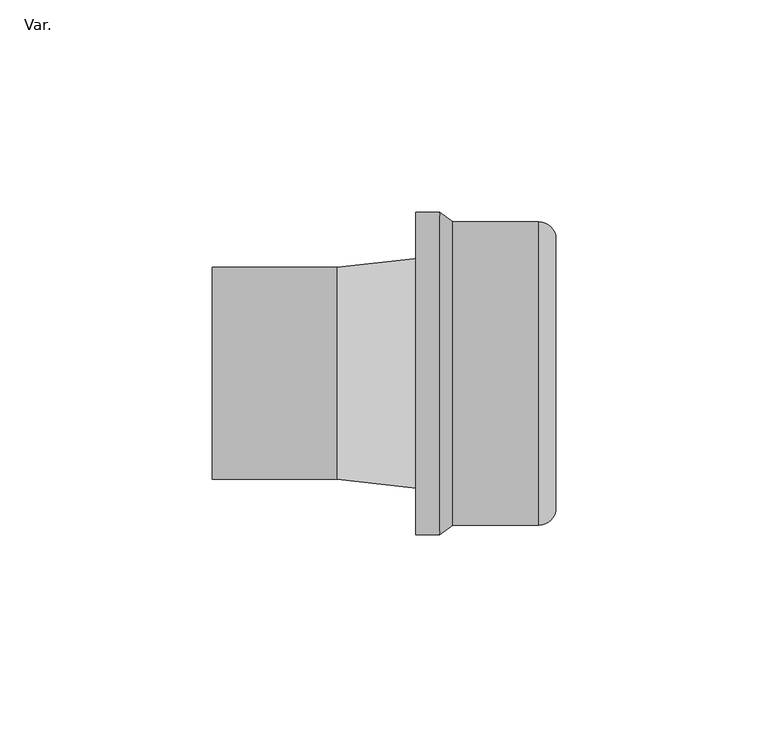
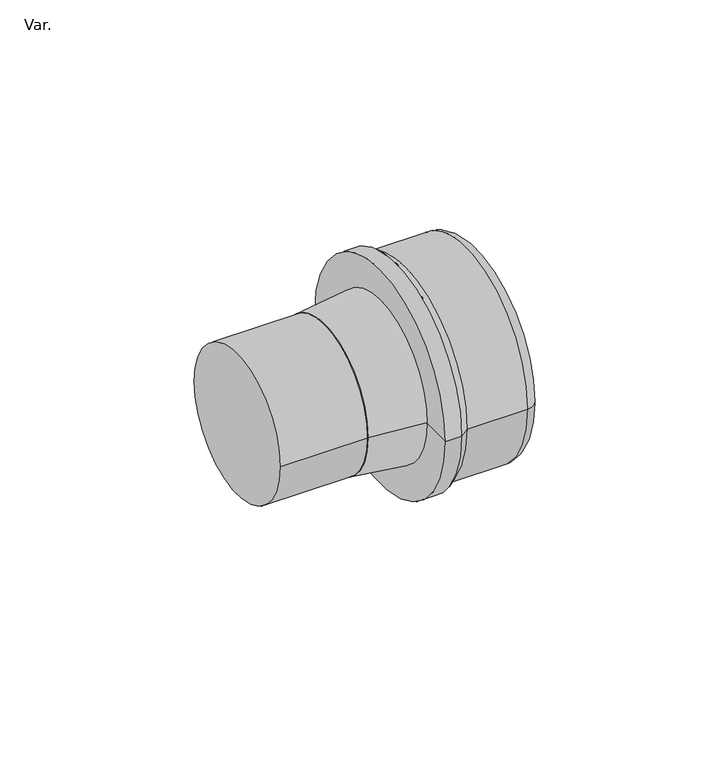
"""IFC4 building model written with IfcOpenShell, lengths in millimetres: pipe fitting geometry, PIF_HDPE inspection screw lock_Akatherm : Var.."""

import ifcopenshell
import ifcopenshell.guid

model = None  # the IFC model being written
_history = None  # IfcOwnerHistory: only IFC2X3 demands one
_inside = {}  # id of a spatial element -> (the spatial element, [elements in it])
_under = {}  # id of a project, library or spatial element -> (it, [spatial elements below it])
_declared = {}  # id of a project -> (the project, [libraries it declares])
_typed = {}  # id of a type object -> (the type object, [elements of that type])
_made_of = {}  # id of a material, layer set ... -> (it, [elements and type objects made of it])


def new_model(schema):
    """Start an empty IFC model of exactly this schema.

    Asked for "IFC4X3", IfcOpenShell would pick the latest addendum, in which some entities
    have other attributes; the version numbers below select the first issue.
    IFC2X3 requires an IfcOwnerHistory on every rooted entity: one is made here for all.
    """
    global model, _history
    if schema == "IFC4X3":
        model = ifcopenshell.file(schema_version=(4, 3, 0, 0))
    else:
        model = ifcopenshell.file(schema=schema)
    _inside.clear()
    _under.clear()
    _declared.clear()
    _typed.clear()
    _made_of.clear()
    _history = None
    if model.schema == "IFC2X3":
        org = make("IfcOrganization", Name="unknown")
        user = make(
            "IfcPersonAndOrganization",
            ThePerson=make("IfcPerson", FamilyName="unknown"),
            TheOrganization=org,
        )
        app = make(
            "IfcApplication",
            ApplicationDeveloper=org,
            Version="unknown",
            ApplicationFullName="unknown",
            ApplicationIdentifier="unknown",
        )
        _history = make(
            "IfcOwnerHistory",
            OwningUser=user,
            OwningApplication=app,
            ChangeAction="ADDED",
            CreationDate=0,
        )
    return model


def make(cls, **values):
    """One entity of the class cls with the attributes given. An attribute that is None is left unset."""
    return model.create_entity(
        cls, **{name: value for name, value in values.items() if value is not None}
    )


def rooted(cls, **values):
    """An entity with a GlobalId (a new one), such as an element, a storey or a relation."""
    return make(cls, GlobalId=ifcopenshell.guid.new(), OwnerHistory=_history, **values)


def si_unit(unit_type, name, prefix=None):
    """IfcSIUnit, for example si_unit("LENGTHUNIT", "METRE", prefix="MILLI")."""
    return make("IfcSIUnit", UnitType=unit_type, Prefix=prefix, Name=name)


def assignment(units):
    """IfcUnitAssignment: the units of a project."""
    return None if units is None else make("IfcUnitAssignment", Units=units)


def point(xyz):
    """IfcCartesianPoint."""
    return None if xyz is None else make("IfcCartesianPoint", Coordinates=xyz)


def direction(xyz):
    """IfcDirection."""
    return None if xyz is None else make("IfcDirection", DirectionRatios=xyz)


def frame(location, z_axis=None, x_axis=None):
    """IfcAxis2Placement3D, a coordinate frame: its origin and axes. An axis left out is left unset."""
    return make(
        "IfcAxis2Placement3D",
        Location=point(location),
        Axis=direction(z_axis),
        RefDirection=direction(x_axis),
    )


def frame_2d(location, x_axis=None):
    """IfcAxis2Placement2D, a coordinate frame in the plane: its origin and x axis."""
    return make(
        "IfcAxis2Placement2D", Location=point(location), RefDirection=direction(x_axis)
    )


def origin():
    """The frame at (0, 0, 0) with its axes left unset."""
    return frame((0.0, 0.0, 0.0))


def origin_2d():
    """The frame at (0, 0) in the plane with its x axis left unset."""
    return frame_2d((0.0, 0.0))


def place(relative_to, where):
    """IfcLocalPlacement: puts the frame where relative to a parent placement (None: the world)."""
    return make(
        "IfcLocalPlacement", PlacementRelTo=relative_to, RelativePlacement=where
    )


def context(
    kind, dimensions, precision=None, world=None, true_north=None, identifier=None
):
    """IfcGeometricRepresentationContext, for example the 3D "Model" context."""
    return make(
        "IfcGeometricRepresentationContext",
        ContextIdentifier=identifier,
        ContextType=kind,
        CoordinateSpaceDimension=dimensions,
        Precision=precision,
        WorldCoordinateSystem=world,
        TrueNorth=true_north,
    )


def project(units=None, contexts=None):
    """IfcProject with its units and contexts."""
    return rooted(
        "IfcProject",
        Name="project",
        RepresentationContexts=contexts,
        UnitsInContext=assignment(units),
    )


def spatial(cls, under=None, at=None, **own):
    """A site, building, storey or space (cls), placed at a placement, below another one or the project."""
    s = rooted(cls, ObjectPlacement=at, **own)
    if under is not None:
        _under.setdefault(under.id(), (under, []))[1].append(s)
    return s


def polyline(points):
    """IfcPolyline through the points."""
    return make("IfcPolyline", Points=[point(p) for p in points])


def circle_curve(where, radius):
    """IfcCircle in the frame where."""
    return make("IfcCircle", Position=where, Radius=radius)


def ellipse_curve(where, semi_axis1, semi_axis2):
    """IfcEllipse in the frame where."""
    return make(
        "IfcEllipse", Position=where, SemiAxis1=semi_axis1, SemiAxis2=semi_axis2
    )


def trimmed(basis, trim1, trim2, sense, master):
    """IfcTrimmedCurve: the piece of a basis curve between two trims."""
    return make(
        "IfcTrimmedCurve",
        BasisCurve=basis,
        Trim1=trim1,
        Trim2=trim2,
        SenseAgreement=sense,
        MasterRepresentation=master,
    )


def segment(curve, same_sense, transition):
    """IfcCompositeCurveSegment."""
    return make(
        "IfcCompositeCurveSegment",
        Transition=transition,
        SameSense=same_sense,
        ParentCurve=curve,
    )


def composite_curve(segments, self_intersect=None):
    """IfcCompositeCurve: segments joined end to end."""
    return make("IfcCompositeCurve", Segments=segments, SelfIntersect=self_intersect)


def outline(outer, holes=None, kind="AREA"):
    """IfcArbitraryClosedProfileDef: a profile drawn as a closed curve; with holes, ...WithVoids."""
    if holes is None:
        return make("IfcArbitraryClosedProfileDef", ProfileType=kind, OuterCurve=outer)
    return make(
        "IfcArbitraryProfileDefWithVoids",
        ProfileType=kind,
        OuterCurve=outer,
        InnerCurves=holes,
    )


def extrude(swept, where, along, depth):
    """IfcExtrudedAreaSolid: the profile swept, set in the frame where, extruded along a direction by depth."""
    return make(
        "IfcExtrudedAreaSolid",
        SweptArea=swept,
        Position=where,
        ExtrudedDirection=direction(along),
        Depth=depth,
    )


def shape(context_of_items, identifier, shape_type, items):
    """IfcShapeRepresentation: the items that make up one representation, for example the "Body"."""
    return make(
        "IfcShapeRepresentation",
        ContextOfItems=context_of_items,
        RepresentationIdentifier=identifier,
        RepresentationType=shape_type,
        Items=items,
    )


def source(mapping_origin, context_of_items, identifier, shape_type, items):
    """IfcRepresentationMap: a shape defined once, which mapped items show again and again."""
    return make(
        "IfcRepresentationMap",
        MappingOrigin=mapping_origin,
        MappedRepresentation=shape(context_of_items, identifier, shape_type, items),
    )


def transform(
    local_origin,
    x_axis=None,
    y_axis=None,
    z_axis=None,
    scale=None,
    scale2=None,
    scale3=None,
    uniform=True,
):
    """IfcCartesianTransformationOperator3D, or its non-uniform kind. x_axis, y_axis, z_axis: its Axis1, 2, 3."""
    if uniform:
        return make(
            "IfcCartesianTransformationOperator3D",
            Axis1=direction(x_axis),
            Axis2=direction(y_axis),
            LocalOrigin=point(local_origin),
            Scale=scale,
            Axis3=direction(z_axis),
        )
    return make(
        "IfcCartesianTransformationOperator3DnonUniform",
        Axis1=direction(x_axis),
        Axis2=direction(y_axis),
        LocalOrigin=point(local_origin),
        Scale=scale,
        Axis3=direction(z_axis),
        Scale2=scale2,
        Scale3=scale3,
    )


def mapped(mapping_source, mapping_target):
    """IfcMappedItem: shows the shape of a source again, moved by a transform."""
    return make(
        "IfcMappedItem", MappingSource=mapping_source, MappingTarget=mapping_target
    )


def made_of(thing, what):
    """Note that an element or type object is made of a material, layer set ...; save() writes the relation."""
    if what is not None:
        _made_of.setdefault(what.id(), (what, []))[1].append(thing)
    return thing


def element(
    cls,
    number,
    at=None,
    inside=None,
    cuts=None,
    type_object=None,
    material=None,
    context=None,
    identifier="Body",
    shape_type=None,
    held_by="IfcProductDefinitionShape",
    body=None,
    shapes=None,
    **own,
):
    """One element of the class cls, such as IfcWall. Its Tag is "e" and its number.

    at: its placement. inside: the storey or other place that contains it. cuts: it is an
    opening in that element (IfcRelVoidsElement). A single representation is given by context,
    identifier, shape_type and body (its items); several are given by shapes. held_by: the class
    of the entity that holds the representations. save() writes the other relations.
    """
    e = rooted(cls, Tag="e%d" % number, ObjectPlacement=at, **own)
    if body is not None:
        shapes = [shape(context, identifier, shape_type, body)]
    if shapes is not None:
        e.Representation = make(held_by, Representations=shapes)
    if inside is not None:
        _inside.setdefault(inside.id(), (inside, []))[1].append(e)
    if cuts is not None:
        rooted(
            "IfcRelVoidsElement", RelatingBuildingElement=cuts, RelatedOpeningElement=e
        )
    if type_object is not None:
        _typed.setdefault(type_object.id(), (type_object, []))[1].append(e)
    return made_of(e, material)


def aggregate(whole, parts):
    """IfcRelAggregates: a whole, such as a stair, and the parts it consists of."""
    return rooted("IfcRelAggregates", RelatingObject=whole, RelatedObjects=parts)


def save(model, path):
    """Write the relations noted so far, then the file.

    IfcRelAggregates (storeys below a building ...), IfcRelContainedInSpatialStructure (elements
    in a storey), IfcRelDefinesByType, IfcRelAssociatesMaterial and IfcRelDeclares: one each for
    every whole, place, type object, material and project.
    """
    for whole, parts in _under.values():
        aggregate(whole, parts)
    for where, things in _inside.values():
        rooted(
            "IfcRelContainedInSpatialStructure",
            RelatedElements=things,
            RelatingStructure=where,
        )
    for kind, things in _typed.values():
        rooted("IfcRelDefinesByType", RelatedObjects=things, RelatingType=kind)
    for what, things in _made_of.values():
        rooted("IfcRelAssociatesMaterial", RelatedObjects=things, RelatingMaterial=what)
    for by, libraries in _declared.values():
        rooted("IfcRelDeclares", RelatingContext=by, RelatedDefinitions=libraries)
    model.write(path)


def plane_surface(at):
    """IfcPlane: the flat surface through the origin of the frame at, square to its z axis."""
    return make("IfcPlane", Position=at)


def cylinder_surface(at, radius):
    """IfcCylindricalSurface: all points at the distance radius from the z axis of the frame at."""
    return make("IfcCylindricalSurface", Position=at, Radius=radius)


def revolved_surface(curve, axis_point, axis_direction):
    """IfcSurfaceOfRevolution: the curve turned about the line through axis_point along axis_direction."""
    return make(
        "IfcSurfaceOfRevolution",
        SweptCurve=make("IfcArbitraryOpenProfileDef", ProfileType="CURVE", Curve=curve),
        AxisPosition=make("IfcAxis1Placement", Location=point(axis_point), Axis=direction(axis_direction)),
    )


def advanced_brep(points, edges, surfaces, faces):
    """IfcAdvancedBrep: a solid bounded by faces that lie on surfaces and meet in shared edges.

    An edge is (start, end): straight between two places in points (the first is 0);
    or (start, end, curve); or (start, end, curve, False) where it runs against its curve.
    A face is (place in surfaces, loops), or (place, loops, False) where it looks against
    its surface's normal. A loop lists edges by number (the first is 1), with a minus sign
    where the edge is run from its end to its start. The first loop is the outer one.
    """
    corners = [point(p) for p in points]
    vertices = [make("IfcVertexPoint", VertexGeometry=c) for c in corners]
    made = []
    for start, end, *more in edges:
        made.append(
            make(
                "IfcEdgeCurve",
                EdgeStart=vertices[start],
                EdgeEnd=vertices[end],
                EdgeGeometry=more[0] if more else make("IfcPolyline", Points=[corners[start], corners[end]]),
                SameSense=more[1] if len(more) > 1 else True,
            )
        )
    hull = []
    for where, loops, *sense in faces:
        bounds = []
        for j, loop in enumerate(loops):
            ring = [make("IfcOrientedEdge", EdgeElement=made[abs(k) - 1], Orientation=k > 0) for k in loop]
            bounds.append(
                make(
                    "IfcFaceOuterBound" if j == 0 else "IfcFaceBound",
                    Bound=make("IfcEdgeLoop", EdgeList=ring),
                    Orientation=True,
                )
            )
        hull.append(make("IfcAdvancedFace", Bounds=bounds, FaceSurface=surfaces[where], SameSense=sense[0] if sense else True))
    return make("IfcAdvancedBrep", Outer=make("IfcClosedShell", CfsFaces=hull))


def var_f264d998(model_context):
    return source(origin(), model_context, "Body", "SolidModel", [
        advanced_brep(
        [(66.2, -29.25, 0.0), (66.2, 29.25, 0.0), (27.8, -25.0, 0.0), (27.8, 25.0, 0.0)],
        [
            (0, 1, circle_curve(frame((66.2, 0.0, 0.0), z_axis=(1.0, 0.0, 0.0), x_axis=(0.0, -1.0, 0.0)), 29.25)),
            (1, 0, circle_curve(frame((66.2, 0.0, 0.0), z_axis=(1.0, 0.0, 0.0), x_axis=(0.0, 1.0, 0.0)), 29.25)),
            (2, 3, circle_curve(frame((27.8, 0.0, 0.0), z_axis=(-1.0, 0.0, 0.0), x_axis=(0.0, 1.0, 0.0)), 25.0)),
            (3, 2, circle_curve(frame((27.8, 0.0, 0.0), z_axis=(-1.0, 0.0, 0.0), x_axis=(0.0, -1.0, 0.0)), 25.0)),
            (3, 1),
            (0, 2),
        ],
        [
            plane_surface(frame((66.2, 0.0, 0.0), z_axis=(1.0, 0.0, 0.0), x_axis=(0.0, 0.0, -1.0))),
            plane_surface(frame((27.8, 0.0, 0.0), z_axis=(-1.0, 0.0, 0.0), x_axis=(0.0, 0.0, -1.0))),
            revolved_surface(polyline([(27.80000000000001, 24.99999999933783, 0.0), (66.19999999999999, 29.25, 0.0)]), (-198.0823529, 0.0, 0.0), (1.0, 0.0, 0.0)),
            revolved_surface(polyline([(27.80000000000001, -24.99999999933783, 0.0), (66.19999999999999, -29.25, 0.0)]), (-198.0823529, 0.0, 0.0), (1.0, 0.0, 0.0)),
        ],
        [
            (0, [[1, 2]]),
            (1, [[3, 4]]),
            (2, [[-4, 5, -1, 6]]),
            (3, [[-3, -6, -2, -5]]),
        ],
    ),
        extrude(outline(composite_curve([segment(trimmed(circle_curve(origin_2d(), 25.0), [point((-25.0, 0.0))], [point((25.0, 0.0))], False, "CARTESIAN"), True, "CONTINUOUS"), segment(trimmed(circle_curve(origin_2d(), 25.0), [point((25.0, 0.0))], [point((-25.0, 0.0))], False, "CARTESIAN"), True, "CONTINUOUS")], self_intersect=False)), frame((-1.7, 0.0, 0.0), z_axis=(1.0, 0.0, 0.0), x_axis=(0.0, 1.0, 0.0)), (0.0, 0.0, 1.0), 29.5),
        advanced_brep(
        [(79.3, -31.75, 0.0), (79.3, 31.75, 0.0), (79.3, 0.0, 0.0), (75.3, -35.75, 0.0), (75.3, 35.75, 0.0), (55.0, -35.75, 0.0), (55.0, 35.75, 0.0), (51.9, -38.0, 0.0), (51.9, 38.0, 0.0), (46.3, -38.0, 0.0), (46.3, 38.0, 0.0), (46.3, 0.0, 0.0)],
        [
            (0, 1, circle_curve(frame((79.3, 0.0, 0.0), z_axis=(1.0, 0.0, 0.0), x_axis=(0.0, 1.0, 0.0)), 31.75)),
            (1, 2),
            (2, 0),
            (1, 0, circle_curve(frame((79.3, 0.0, 0.0), z_axis=(1.0, 0.0, 0.0), x_axis=(0.0, 1.0, 0.0)), 31.75)),
            (3, 4, circle_curve(frame((75.3, 0.0, 0.0), z_axis=(1.0, 0.0, 0.0), x_axis=(0.0, 1.0, 0.0)), 35.75)),
            (4, 1, circle_curve(frame((75.3, 31.75, 0.0), z_axis=(0.0, 0.0, -1.0), x_axis=(1.0, 0.0, 0.0)), 4.0)),
            (0, 3, circle_curve(frame((75.3, -31.75, 0.0), z_axis=(0.0, 0.0, -1.0), x_axis=(1.0, 0.0, 0.0)), 4.0)),
            (4, 3, circle_curve(frame((75.3, 0.0, 0.0), z_axis=(1.0, 0.0, 0.0), x_axis=(0.0, 1.0, 0.0)), 35.75)),
            (5, 6, circle_curve(frame((55.0, 0.0, 0.0), z_axis=(1.0, 0.0, 0.0), x_axis=(0.0, 1.0, 0.0)), 35.75)),
            (6, 4),
            (3, 5),
            (6, 5, circle_curve(frame((55.0, 0.0, 0.0), z_axis=(1.0, 0.0, 0.0), x_axis=(0.0, 1.0, 0.0)), 35.75)),
            (7, 8, circle_curve(frame((51.9, 0.0, 0.0), z_axis=(1.0, 0.0, 0.0), x_axis=(0.0, 1.0, 0.0)), 38.0)),
            (8, 6),
            (5, 7),
            (8, 7, circle_curve(frame((51.9, 0.0, 0.0), z_axis=(1.0, 0.0, 0.0), x_axis=(0.0, 1.0, 0.0)), 38.0)),
            (9, 10, circle_curve(frame((46.3, 0.0, 0.0), z_axis=(1.0, 0.0, 0.0), x_axis=(0.0, 1.0, 0.0)), 38.0)),
            (10, 8),
            (7, 9),
            (10, 9, circle_curve(frame((46.3, 0.0, 0.0), z_axis=(1.0, 0.0, 0.0), x_axis=(0.0, 1.0, 0.0)), 38.0)),
            (11, 10),
            (9, 11),
        ],
        [
            plane_surface(frame((79.3, 0.0, 0.0), z_axis=(1.0, 0.0, 0.0), x_axis=(0.0, 1.0, 0.0))),
            revolved_surface(trimmed(ellipse_curve(frame((75.3, 31.75, 0.0), z_axis=(0.0, 0.0, 1.0), x_axis=(1.0, 0.0, 0.0)), 4.0, 4.0), [point((79.3, 31.75, 0.0))], [point((75.3, 35.75, 0.0))], True, "CARTESIAN"), (0.0, 0.0, 0.0), (-1.0, 0.0, 0.0)),
            cylinder_surface(frame((0.0, 0.0, 0.0), z_axis=(-1.0, 0.0, 0.0), x_axis=(0.0, 1.0, 0.0)), 35.75),
            revolved_surface(polyline([(55.0, 35.75, 0.0), (51.9, 38.0, 0.0)]), (0.0, 0.0, 0.0), (-1.0, 0.0, 0.0)),
            cylinder_surface(frame((0.0, 0.0, 0.0), z_axis=(-1.0, 0.0, 0.0), x_axis=(0.0, 1.0, 0.0)), 38.0),
            plane_surface(frame((46.3, 0.0, 0.0), z_axis=(-1.0, 0.0, 0.0), x_axis=(0.0, 1.0, 0.0))),
        ],
        [
            (0, [[1, 2, 3]]),
            (0, [[4, -3, -2]]),
            (1, [[5, 6, -1, 7]]),
            (1, [[8, -7, -4, -6]]),
            (2, [[9, 10, -5, 11]]),
            (2, [[12, -11, -8, -10]]),
            (3, [[13, 14, -9, 15]]),
            (3, [[16, -15, -12, -14]]),
            (4, [[17, 18, -13, 19]]),
            (4, [[20, -19, -16, -18]]),
            (5, [[21, -17, 22]]),
            (5, [[-22, -20, -21]]),
        ],
    ),
    ])


if __name__ == "__main__":
    model = new_model("IFC4")
    model_context = context("Model", 3, world=origin())
    ifc_project = project(units=[si_unit("LENGTHUNIT", "METRE", prefix="MILLI")], contexts=[model_context])
    site = spatial("IfcSite", under=ifc_project)
    building = spatial("IfcBuilding", under=site)
    placement = place(None, origin())
    var_shape = var_f264d998(model_context)
    element("IfcPipeFitting", 1, ObjectType="PIF_HDPE inspection screw lock_Akatherm : Var.", at=placement, inside=building, context=model_context, shape_type="MappedRepresentation", body=[
        mapped(var_shape, transform((0.0, 0.0, 0.0), x_axis=(1.0, 0.0, 0.0), y_axis=(0.0, 1.0, 0.0), z_axis=(0.0, 0.0, 1.0))),
    ])
    save(model, "model.ifc")
